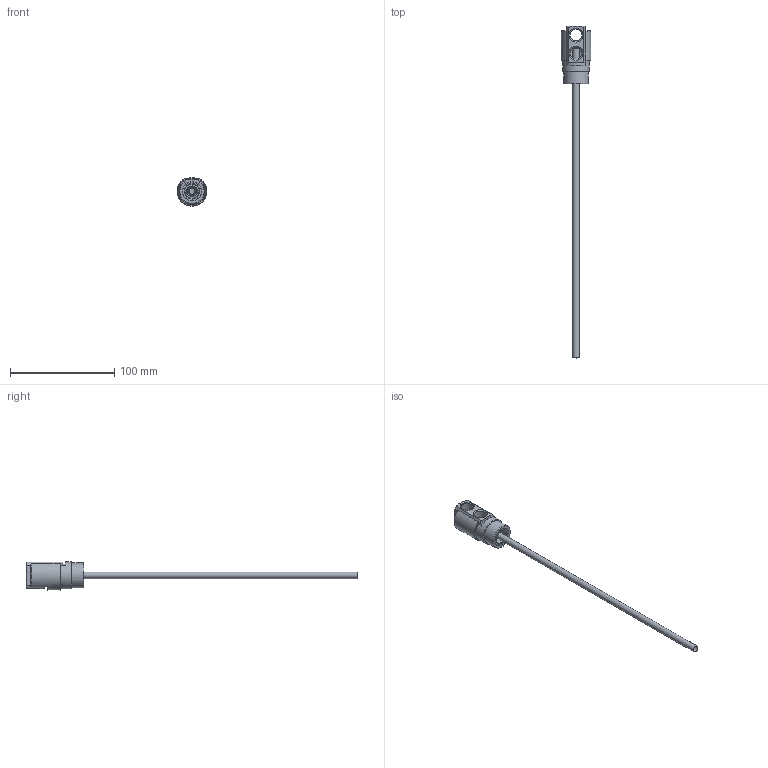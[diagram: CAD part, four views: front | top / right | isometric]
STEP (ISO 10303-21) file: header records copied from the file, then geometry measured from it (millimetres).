
FILE_DESCRIPTION(/* description */ (''),/* implementation_level */ '2;1');
FILE_NAME(/* name */ 'C:/Users/drich/Desktop/SC146N-4.step',/* time_stamp */ '2020-12-14T10:27:35-06:00',/* author */ (''),/* organization */ (''),/* preprocessor_version */ 'ST-DEVELOPER v18.1',/* originating_system */ 'Autodesk Translation Framework v9.7.1.1290',/* authorisation */ '');
FILE_SCHEMA (('AUTOMOTIVE_DESIGN { 1 0 10303 214 3 1 1 }'));
Length unit declared in the file: inch
Products named in the file (5): SC146N-4; SC146H HEAD; SC146H Sleeve; SEAL; HF250T-12
Assembly tree (4 placements, depth 3):
  SC146N-4
    SC146H HEAD
      SC146H Sleeve
      SEAL
    HF250T-12
Bounding box: 28.56 x 318.95 x 27.24 mm (x, y, z)
Volume: 22163.5 mm3; surface area: 26189 mm2
Topology: 4 solids, 4 shells, 78 faces, 191 edges, 123 vertices
Faces by surface type: plane 37, cylinder 21, cone 11, torus 9
Full cylindrical faces by diameter (mm): 5.842 x1, 6.35 x1, 6.909 x1, 7.818 x1, 7.976 x1, 10.312 x2, 11.668 x2, 13.589 x1, 13.59 x1, 17.907 x1, 18.034 x1, 21.057 x1, 23.8 x1, 25.908 x1
Entity records: 2613 total; most frequent: CARTESIAN_POINT 620, DIRECTION 410, ORIENTED_EDGE 380, EDGE_CURVE 190, AXIS2_PLACEMENT_3D 165, VERTEX_POINT 123, EDGE_LOOP 93, LINE 80
